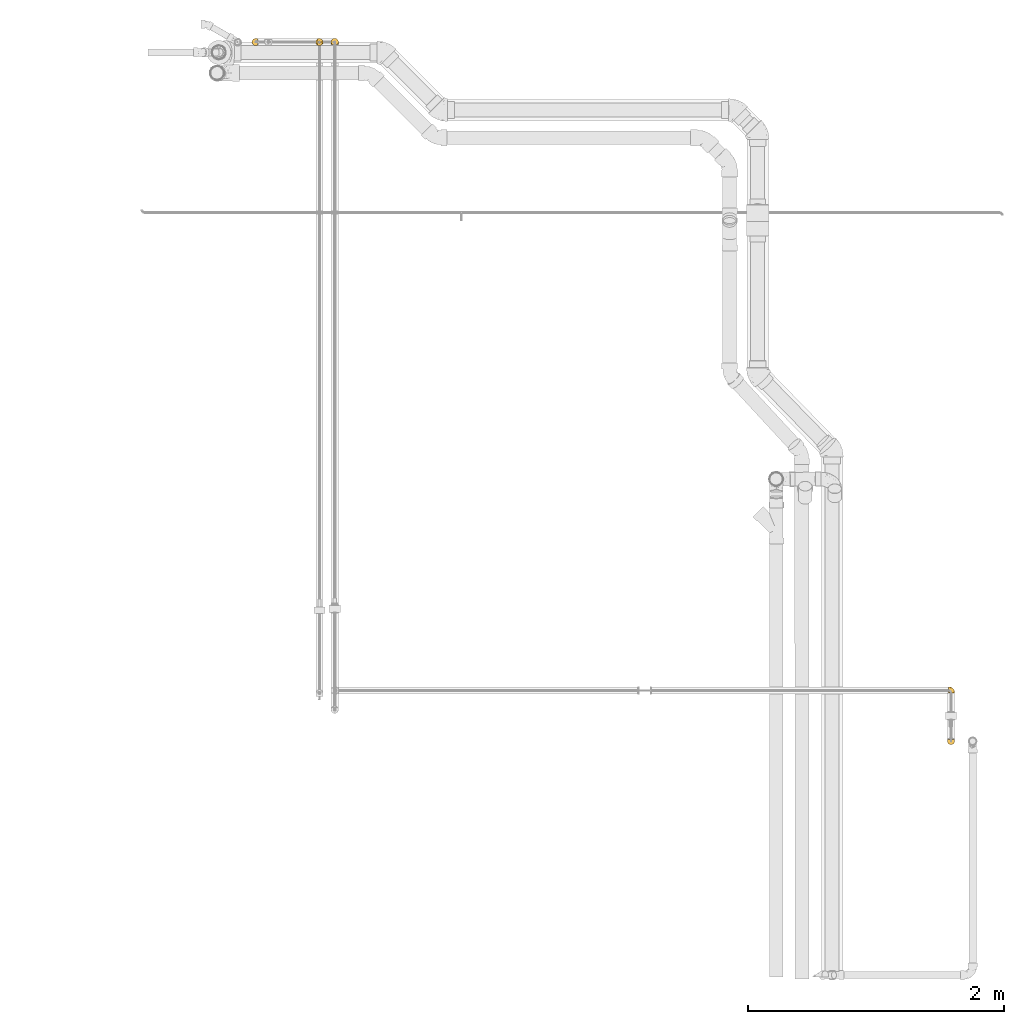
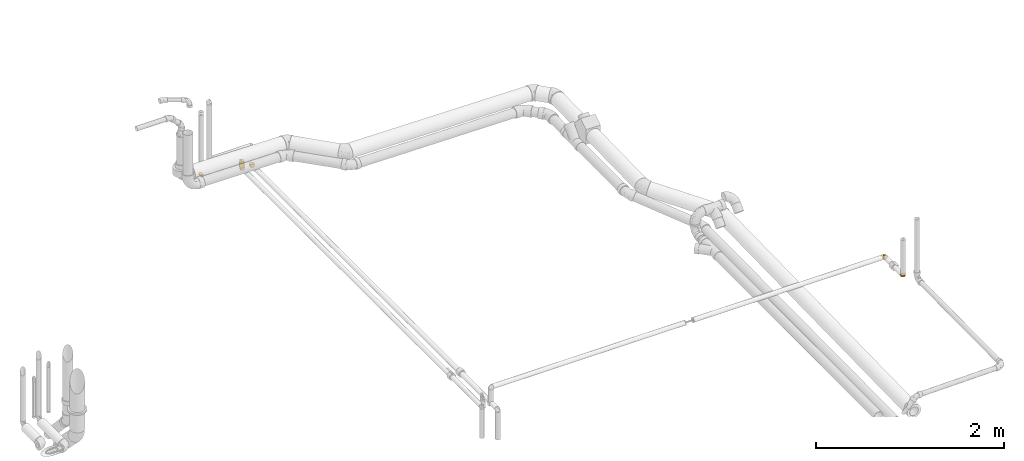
# One storey, part 6 of 78: 7 coverings.
"""IFC2X3 building model written with IfcOpenShell, lengths in millimetres."""

from ifc_helpers import new_model, entity, si_unit, converted_unit, derived_unit, direction, frame, origin_with_axes, origin_2d_with_axis, place, context, subcontext, project, spatial, hollow_circle, extrude, open_shell, surface_model, source, transform, mapped, element, save


model = new_model("IFC2X3")

# Units and contexts
model_context = context("Model", 3, precision=0.01, world=frame((0.0, 4.29681676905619e-09, 0.0)), true_north=direction((4.01073788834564e-13, 1.0)))
plan_context = context("Plan", 3, precision=0.01, world=frame((0.0, 4.29681676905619e-09, 0.0)), true_north=direction((4.01073788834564e-13, 1.0)))
body_context = subcontext(model_context, "Body", "Model", "MODEL_VIEW")
ifc_project = project(units=[converted_unit("PLANEANGLEUNIT", "DEGREE", entity("IfcPositiveLengthMeasure", 0.0174532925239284), si_unit("PLANEANGLEUNIT", "RADIAN"), dimensions=[0, 0, 0, 0, 0, 0, 0]), si_unit("AREAUNIT", "SQUARE_METRE"), si_unit("LENGTHUNIT", "METRE", prefix="MILLI"), si_unit("MASSUNIT", "GRAM", prefix="KILO"), si_unit("POWERUNIT", "WATT"), si_unit("PRESSUREUNIT", "PASCAL"), si_unit("FORCEUNIT", "NEWTON", prefix="KILO"), si_unit("ELECTRICVOLTAGEUNIT", "VOLT"), si_unit("ELECTRICCURRENTUNIT", "AMPERE"), si_unit("THERMODYNAMICTEMPERATUREUNIT", "DEGREE_CELSIUS"), si_unit("TIMEUNIT", "SECOND"), si_unit("VOLUMEUNIT", "CUBIC_METRE"), derived_unit("LINEARVELOCITYUNIT", [(si_unit("LENGTHUNIT", "METRE"), 1), (si_unit("TIMEUNIT", "SECOND"), -1)]), derived_unit("VOLUMETRICFLOWRATEUNIT", [(si_unit("VOLUMEUNIT", "CUBIC_METRE"), 1), (si_unit("TIMEUNIT", "SECOND"), -1)]), derived_unit("THERMALTRANSMITTANCEUNIT", [(si_unit("POWERUNIT", "WATT"), 1), (si_unit("THERMODYNAMICTEMPERATUREUNIT", "KELVIN"), -1), (si_unit("AREAUNIT", "SQUARE_METRE"), -1)]), derived_unit("SOUNDPRESSUREUNIT", [(si_unit("PRESSUREUNIT", "PASCAL"), 1)])], contexts=[model_context, plan_context])

# Site, building, storey
site_placement = place(None, frame((0.0, -4.29681676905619e-09, 0.0), z_axis=(0.0, 0.0, 1.0), x_axis=(1.0, 0.0, 0.0)))
site = spatial("IfcSite", under=ifc_project, at=site_placement, Name="ENGM", CompositionType="ELEMENT")
building_placement = place(site_placement, frame((0.0, 4.29681676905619e-09, 0.0), z_axis=(0.0, 0.0, 1.0), x_axis=(1.0, 0.0, 0.0)))
building = spatial("IfcBuilding", under=site, at=building_placement, Name="TH", CompositionType="ELEMENT")
storey_placement = place(building_placement, frame((0.0, 0.0, 205200.0), z_axis=(0.0, 0.0, 1.0), x_axis=(1.0, 0.0, 0.0)))
storey = spatial("IfcBuildingStorey", under=building, at=storey_placement, Name="Nivå D + 1,2 m", CompositionType="ELEMENT", Elevation=205200.0)

# Coverings
shared_shape_1 = source(origin_with_axes(), body_context, "Body", "SurfaceModel", [
    surface_model("IfcShellBasedSurfaceModel", [(12.5872, 18.0, 26.12589), (18.08563, 18.0, 22.66959), (22.67648, 18.0, 18.07698), (26.13012, 18.0, 12.57843), (28.27375, 18.0, 6.44942), (-6.31725, 18.0, 28.30358), (-17.77173, 18.0, -22.9165), (0.0, 18.0, 29.0), (6.45633, 18.0, 28.27217), (-17.77173, 18.0, 22.9165), (-12.34105, 18.0, 26.24307), (28.27217, 18.0, -6.45633), (22.66959, 18.0, -18.08563), (26.12589, 18.0, -12.5872), (18.07698, 18.0, -22.67648), (-12.3529, 18.0, -26.23749), (-6.33004, 18.0, -28.30072), (6.44942, 18.0, -28.27375), (12.57843, 18.0, -26.13012), (0.0, 18.0, -29.0), (29.0, 18.0, 0.0), (-18.0, 17.77173, 22.9165), (-18.0, 17.77173, -22.9165), (-18.0, 12.34563, -26.24091), (-18.0, 6.32509, -28.30182), (-18.0, 0.0, -29.0), (-18.0, 0.0, 29.0), (-18.0, 12.34563, 26.24091), (-18.0, 6.32509, 28.30182), (-18.0, -14.5, 25.11474), (-18.0, -7.50575, 28.01185), (-18.0, -7.50575, -28.01185), (-18.0, -14.5, -25.11474), (-18.0, -28.01185, -7.50575), (-18.0, -25.11474, -14.5), (-18.0, -20.5061, -20.5061), (-18.0, -28.01185, 7.50575), (-18.0, -20.5061, 20.5061), (-18.0, -25.11474, 14.5), (-18.0, -29.0, 0.0), (-17.83859, 17.83859, 22.9165), (-17.83859, 17.83859, -22.9165), (-11.91423, 11.9123, -27.437), (-5.27208, 5.27208, -29.0), (-15.63786, 14.48961, -25.5229), (25.93601, 6.67854, -9.58205), (27.02342, 8.06308, 0.0), (-11.58944, -10.38288, -26.79251), (-8.72435, -16.42638, -23.00725), (-2.15074, -19.82057, -17.65408), (-10.78654, -22.36781, -17.65408), (-10.90925, -4.53647, -28.44912), (-4.56412, -7.81008, -26.79251), (1.42942, -22.15165, -11.53878), (4.08186, -22.64535, -6.52508), (-4.04847, -26.34204, -5.44064), (-6.34693, -25.25014, -11.09782), (8.70204, 11.12014, -27.37401), (12.30526, -12.14334, -15.12435), (15.68692, -5.11925, -17.84797), (18.58838, -6.20359, -13.10629), (-1.45635, 14.48406, -29.0), (20.49628, -7.02537, -7.85654), (-14.48406, 1.45635, -29.0), (17.63513, 1.45693, -19.69333), (20.97621, 0.92546, -15.43347), (14.81555, 11.64794, -24.55768), (19.28448, 8.39344, -20.51001), (12.61582, 4.58807, -24.55768), (4.16849, 4.09476, -27.82577), (3.89702, -4.58536, -25.68841), (-2.23671, -1.20763, -28.17991), (0.57021, -13.0879, -22.56817), (9.4476, -9.00088, -20.51001), (23.77672, 9.91353, -15.43347), (25.42234, 0.01388, 0.0), (15.09054, -13.36351, -8.92567), (-8.45406, 3.95406, -29.0), (-6.64688, -2.8871, -28.41954), (-11.63604, 2.63604, -29.0), (-2.9127, 10.96811, -29.0), (15.23402, -15.23402, 0.0), (20.32818, -7.61007, 0.0), (8.70429, -18.28971, -10.43847), (11.53611, -17.98985, -5.04364), (5.36399, -15.33486, -18.03817), (-8.06308, -27.02342, 0.0), (8.1898, 0.02909, -25.52631), (12.51117, -2.09819, -22.30296), (-4.09239, 8.1201, -29.0), (-0.01388, -25.42234, 0.0), (7.61007, -20.32818, 0.0), (-2.15312, -19.82156, 17.65408), (0.57215, -13.08608, 22.56863), (-8.72508, -16.42658, 23.00725), (-4.04847, -26.34203, 5.4407), (-10.78795, -22.36806, 17.65408), (-6.34785, -25.25039, 11.09782), (25.939, 6.67899, 9.57411), (1.43206, -22.14749, 11.54476), (-11.58944, -10.38288, 26.79251), (20.50587, -7.01305, 7.85179), (20.98134, 0.92337, 15.42467), (4.16859, 4.08516, 27.82424), (8.70955, 11.11747, 27.37123), (-2.9127, 10.96811, 29.0), (8.71076, -18.28571, 10.43687), (11.53628, -17.99007, 5.04207), (15.09914, -13.35631, 8.92169), (12.51139, -2.10414, 22.30009), (8.20363, 0.03075, 25.52066), (3.90743, -4.56802, 25.69113), (-2.23663, -1.20773, 28.17988), (-6.92531, -2.24067, 28.55295), (-4.56412, -7.81008, 26.79251), (15.69231, -5.11628, 17.84442), (9.45318, -9.00636, 20.50219), (12.31497, -12.1393, 15.11775), (23.78211, 9.91229, 15.42467), (19.29205, 8.39148, 20.50219), (14.82422, 11.64641, 24.55215), (12.62384, 4.58443, 24.55215), (17.64599, 1.45836, 19.68333), (-11.63604, 2.63604, 29.0), (-14.48406, 1.45635, 29.0), (-10.90925, -4.53647, 28.44912), (5.3697, -15.3417, 18.027), (-1.45635, 14.48406, 29.0), (4.08207, -22.64476, 6.52689), (-5.27208, 5.27208, 29.0), (-4.09239, 8.1201, 29.0), (-8.45406, 3.95406, 29.0), (18.10711, -6.95019, 13.06771), (-11.91423, 11.9123, 27.437), (-10.60868, 7.01569, 28.60662)], [open_shell([[[0, 1, 2]], [[2, 3, 4]], [[0, 2, 5]], [[2, 6, 5]], [[7, 8, 0]], [[6, 9, 10]], [[6, 10, 5]], [[7, 0, 5]], [[2, 4, 6]], [[4, 11, 6]], [[11, 12, 6]], [[12, 11, 13]], [[14, 6, 12]], [[15, 6, 16]], [[17, 14, 18]], [[6, 14, 17]], [[19, 16, 6]], [[19, 6, 17]], [[11, 4, 20]], [[21, 22, 23]], [[24, 25, 23]], [[26, 23, 25]], [[27, 21, 28]], [[21, 26, 28]], [[21, 23, 26]], [[26, 29, 30]], [[26, 25, 29]], [[31, 32, 33]], [[34, 33, 32]], [[34, 32, 35]], [[31, 33, 36]], [[37, 29, 36]], [[37, 36, 38]], [[29, 31, 36]], [[33, 39, 36]], [[31, 29, 25]], [[22, 21, 40]], [[41, 22, 40]], [[9, 6, 40]], [[41, 40, 6]], [[42, 24, 23]], [[25, 24, 43]], [[43, 24, 42]], [[42, 23, 44]], [[22, 41, 44]], [[41, 6, 15]], [[19, 43, 16]], [[15, 44, 41]], [[22, 44, 23]], [[15, 16, 42]], [[15, 42, 44]], [[43, 42, 16]], [[45, 11, 46]], [[32, 31, 47]], [[45, 13, 11]], [[48, 49, 50]], [[47, 51, 52]], [[53, 54, 55]], [[55, 33, 56]], [[18, 57, 17]], [[50, 34, 35]], [[35, 32, 48]], [[58, 59, 60]], [[34, 50, 56]], [[17, 61, 19]], [[45, 62, 60]], [[31, 25, 63]], [[64, 65, 59]], [[66, 67, 68]], [[69, 70, 71]], [[18, 66, 57]], [[66, 18, 14]], [[72, 70, 73]], [[67, 14, 12]], [[74, 67, 12]], [[62, 45, 75]], [[64, 67, 65]], [[58, 60, 76]], [[12, 13, 74]], [[49, 48, 72]], [[75, 45, 46]], [[65, 74, 45]], [[34, 56, 33]], [[77, 78, 79]], [[69, 80, 57]], [[57, 61, 17]], [[81, 62, 82]], [[69, 57, 68]], [[83, 84, 54]], [[47, 48, 32]], [[72, 73, 85]], [[53, 83, 54]], [[33, 55, 86]], [[58, 85, 73]], [[43, 69, 71]], [[70, 87, 88]], [[69, 43, 89]], [[11, 20, 46]], [[45, 74, 13]], [[67, 74, 65]], [[67, 66, 14]], [[57, 66, 68]], [[63, 51, 31]], [[48, 47, 52]], [[48, 52, 72]], [[70, 72, 52]], [[52, 51, 78]], [[88, 87, 68]], [[51, 63, 79]], [[71, 77, 43]], [[31, 51, 47]], [[71, 52, 78]], [[79, 78, 51]], [[52, 71, 70]], [[86, 55, 90]], [[86, 39, 33]], [[84, 81, 91]], [[91, 90, 54]], [[55, 54, 90]], [[76, 84, 83]], [[91, 54, 84]], [[53, 55, 56]], [[56, 49, 53]], [[85, 53, 49]], [[58, 76, 83]], [[76, 62, 81]], [[83, 53, 85]], [[59, 58, 73]], [[83, 85, 58]], [[72, 85, 49]], [[88, 59, 73]], [[60, 59, 65]], [[70, 88, 73]], [[64, 68, 67]], [[70, 69, 87]], [[69, 68, 87]], [[45, 60, 65]], [[60, 62, 76]], [[59, 88, 64]], [[68, 64, 88]], [[48, 50, 35]], [[56, 50, 49]], [[57, 80, 61]], [[62, 75, 82]], [[81, 84, 76]], [[89, 80, 69]], [[77, 71, 78]], [[92, 93, 94]], [[90, 95, 86]], [[96, 97, 92]], [[3, 98, 4]], [[38, 36, 97]], [[95, 99, 97]], [[30, 29, 100]], [[101, 98, 102]], [[103, 104, 105]], [[104, 0, 8]], [[106, 107, 108]], [[29, 37, 94]], [[109, 110, 111]], [[112, 113, 114]], [[37, 38, 96]], [[115, 116, 117]], [[102, 118, 119]], [[1, 119, 2]], [[37, 96, 94]], [[98, 3, 118]], [[98, 46, 4]], [[1, 0, 120]], [[121, 109, 122]], [[121, 104, 103]], [[104, 121, 120]], [[101, 75, 98]], [[109, 116, 115]], [[123, 124, 125]], [[117, 126, 106]], [[93, 111, 114]], [[30, 124, 26]], [[120, 119, 1]], [[81, 101, 108]], [[3, 2, 118]], [[8, 127, 104]], [[119, 118, 2]], [[101, 81, 82]], [[36, 86, 95]], [[95, 128, 99]], [[90, 91, 128]], [[106, 108, 117]], [[92, 126, 93]], [[100, 94, 114]], [[129, 103, 130]], [[112, 131, 113]], [[46, 98, 75]], [[46, 20, 4]], [[98, 118, 102]], [[104, 120, 0]], [[119, 120, 121]], [[94, 100, 29]], [[125, 30, 100]], [[111, 93, 116]], [[114, 94, 93]], [[111, 116, 109]], [[103, 129, 112]], [[112, 114, 111]], [[30, 125, 124]], [[114, 125, 100]], [[131, 112, 129]], [[125, 113, 123]], [[103, 112, 111]], [[36, 39, 86]], [[107, 128, 91]], [[36, 95, 97]], [[108, 107, 81]], [[81, 107, 91]], [[128, 107, 106]], [[128, 106, 99]], [[128, 95, 90]], [[126, 99, 106]], [[92, 97, 99]], [[103, 105, 130]], [[115, 132, 102]], [[108, 101, 132]], [[126, 117, 116]], [[132, 115, 117]], [[102, 119, 122]], [[122, 115, 102]], [[109, 121, 110]], [[121, 103, 110]], [[103, 111, 110]], [[93, 126, 116]], [[126, 92, 99]], [[108, 132, 117]], [[102, 132, 101]], [[121, 122, 119]], [[109, 115, 122]], [[97, 96, 38]], [[94, 96, 92]], [[127, 8, 7]], [[127, 105, 104]], [[82, 75, 101]], [[123, 113, 131]], [[114, 113, 125]], [[133, 27, 28]], [[21, 27, 40]], [[40, 27, 133]], [[133, 28, 134]], [[26, 129, 134]], [[129, 7, 5]], [[9, 40, 10]], [[5, 134, 129]], [[26, 134, 28]], [[5, 10, 133]], [[5, 133, 134]], [[40, 133, 10]]])]),
])
for number, where, z_axis, x_axis in (
    (1, (904834.075, 478275.49112, 4410.0), (0.0, 0.0, 1.0), (0.0, 1.0, 0.0)),
    (2, (900010.50163, 483351.12926, 4210.0), (1.0, 0.0, 0.0), (0.0, 1.0, 0.0)),
):
    element("IfcCovering", number, at=place(storey_placement, frame(where, z_axis=z_axis, x_axis=x_axis)), inside=storey, Name="BI20T - Cellegummi 13 mm kalde rør", PredefinedType="INSULATION", context=body_context, shape_type="MappedRepresentation", body=[
        mapped(shared_shape_1, transform((0.0, 0.0, 0.0), scale=1.0)),
    ])
shared_shape_2 = source(origin_with_axes(), body_context, "Body", "SurfaceModel", [
    surface_model("IfcShellBasedSurfaceModel", [(21.50356, 15.0, 17.14197), (24.77856, 15.0, 11.92782), (26.81132, 15.0, 6.11583), (-5.16248, 15.0, 27.01109), (0.0, 15.0, 27.5), (-10.14354, 15.0, 25.56088), (-14.76876, 15.0, -23.19771), (-14.76876, 15.0, 23.19771), (11.93614, 15.0, 24.77456), (6.12238, 15.0, 26.80982), (24.77456, 15.0, -11.93614), (21.49702, 15.0, -17.15016), (17.14197, 15.0, -21.50356), (11.92782, 15.0, -24.77856), (-10.15137, 15.0, -25.55777), (-5.17075, 15.0, -27.0095), (6.11583, 15.0, -26.81132), (0.0, 15.0, -27.5), (26.80982, 15.0, -6.12238), (27.5, 15.0, 0.0), (-15.0, 14.76876, 23.19771), (-15.0, 14.76876, -23.19771), (-15.0, 10.14805, -25.55909), (-15.0, -13.75, 23.8157), (-15.0, 0.0, 27.5), (-15.0, 5.16599, -27.01042), (-15.0, 10.14805, 25.55909), (-15.0, 5.16599, 27.01042), (-15.0, -7.11752, 26.56296), (-15.0, 0.0, -27.5), (-15.0, -13.75, -23.8157), (-15.0, -23.8157, -13.75), (-15.0, -19.44544, -19.44544), (-15.0, -27.5, 0.0), (-15.0, -26.56296, -7.11752), (-15.0, -19.44544, 19.44544), (-15.0, -23.8157, 13.75), (-15.0, -26.56296, 7.11752), (-15.0, -7.11752, -26.56296), (-14.83649, 14.83649, 23.19771), (-14.83649, 14.83649, -23.19771), (-9.83314, 9.83084, -26.40253), (-4.3934, 4.3934, -27.5), (-12.83947, 12.05061, -25.05125), (-4.48793, -24.01534, -10.52379), (-11.98334, 1.24954, -27.5), (-9.37684, -9.89667, -25.40669), (-8.82333, -4.41336, -26.97014), (-7.04505, 3.29505, -27.5), (-5.1718, -3.02029, -26.93903), (-9.6967, 2.1967, -27.5), (24.65994, 4.7804, -9.08643), (1.06278, -23.77897, -5.3526), (6.25, -21.80608, 0.0), (-4.375, -24.65304, 0.0), (1.54868, -12.7037, -21.40086), (4.32424, -4.93171, -24.3597), (9.55297, -9.15335, -19.44914), (-6.74238, -15.64799, -21.81722), (-1.24954, 11.98334, -27.5), (-8.5236, -21.24312, -16.74094), (-0.77018, -18.95614, -16.74094), (8.31737, 8.99221, -25.95811), (15.40258, -1.18426, -19.44893), (18.35244, 6.40655, -19.44914), (20.06511, -0.36118, -14.63519), (12.13715, 3.11198, -23.28745), (14.08693, 9.36968, -23.28745), (14.85125, -14.38152, -5.78233), (21.80608, -6.25, 0.0), (14.02804, -14.02804, 0.0), (4.36843, 2.94628, -26.36681), (-1.36459, -1.6148, -26.72233), (25.07086, 5.93431, 0.0), (20.29431, -6.45586, -8.02095), (22.58459, 7.72498, -14.63519), (-2.49909, 8.96667, -27.5), (8.33474, -14.73903, -15.37407), (2.78643, -21.46003, -10.12782), (-7.07519, -26.25186, -5.1881), (15.0344, -9.43108, -13.92095), (10.00026, -3.0542, -22.48144), (8.16542, -20.09043, -4.96929), (-3.21442, -7.63988, -25.40669), (9.46251, -17.5384, -9.76399), (-4.49126, -24.01624, 10.52379), (-7.07517, -26.25186, 5.18812), (2.7851, -21.45964, 10.13017), (-0.77879, -18.95975, 16.74094), (-8.52869, -21.24403, 16.74094), (10.00623, -3.06404, 22.47397), (4.36772, 2.93777, 26.36566), (4.32909, -4.93518, 24.35662), (14.09461, 9.36543, 23.28221), (18.35902, 6.40238, 19.44173), (17.15016, 15.0, 21.49702), (-1.36241, -1.61745, 26.7215), (-5.47085, -2.34739, 27.07921), (-3.21442, -7.63988, 25.40669), (15.40846, -1.18809, 19.44194), (12.14263, 3.10369, 23.28221), (-6.745, -15.64869, 21.81722), (8.32409, 8.9881, 25.95548), (20.06721, -0.36943, 14.62684), (22.58901, 7.7202, 14.62684), (-9.37684, -9.89667, 25.40669), (-2.49909, 8.96667, 27.5), (1.54508, -12.70941, 21.39839), (20.30092, -6.44893, 8.01422), (24.66205, 4.77802, 9.0789), (-11.98334, 1.24954, 27.5), (15.03275, -9.44266, 13.91067), (-8.82333, -4.41336, 26.97014), (-1.24954, 11.98334, 27.5), (-9.6967, 2.1967, 27.5), (-7.04505, 3.29505, 27.5), (1.06272, -23.77883, 5.35336), (9.46283, -17.53693, 9.7666), (8.16718, -20.08904, 4.97031), (14.85491, -14.37711, 5.78458), (8.34277, -14.73848, 15.36735), (-4.3934, 4.3934, 27.5), (9.54904, -9.16792, 19.44173), (-9.83314, 9.83084, 26.40253), (-8.43135, 6.03295, 27.22427)], [open_shell([[[0, 1, 2]], [[3, 4, 5]], [[6, 5, 4]], [[7, 5, 6]], [[8, 4, 9]], [[6, 10, 11]], [[10, 6, 0]], [[11, 12, 13]], [[14, 6, 15]], [[13, 6, 11]], [[16, 6, 13]], [[17, 15, 6]], [[17, 6, 16]], [[18, 2, 19]], [[20, 21, 22]], [[23, 24, 22]], [[22, 25, 23]], [[26, 20, 24]], [[26, 24, 27]], [[20, 22, 24]], [[24, 23, 28]], [[25, 29, 23]], [[29, 30, 23]], [[23, 30, 31]], [[31, 30, 32]], [[33, 31, 34]], [[35, 23, 36]], [[36, 33, 37]], [[36, 23, 31]], [[31, 33, 36]], [[30, 29, 38]], [[21, 20, 39]], [[40, 21, 39]], [[7, 6, 39]], [[40, 39, 6]], [[41, 25, 22]], [[29, 25, 42]], [[42, 25, 41]], [[41, 22, 43]], [[21, 40, 43]], [[40, 6, 14]], [[17, 42, 15]], [[14, 43, 40]], [[21, 43, 22]], [[14, 15, 41]], [[14, 41, 43]], [[42, 41, 15]], [[31, 44, 34]], [[38, 29, 45]], [[46, 30, 38]], [[38, 47, 46]], [[48, 49, 50]], [[10, 18, 51]], [[52, 53, 54]], [[55, 56, 57]], [[30, 58, 32]], [[16, 59, 17]], [[32, 60, 31]], [[31, 60, 44]], [[58, 61, 60]], [[13, 62, 16]], [[59, 16, 62]], [[63, 64, 65]], [[64, 12, 11]], [[66, 67, 64]], [[68, 69, 70]], [[13, 67, 62]], [[71, 56, 72]], [[18, 19, 73]], [[66, 64, 63]], [[65, 51, 74]], [[11, 10, 75]], [[61, 58, 55]], [[51, 69, 74]], [[75, 64, 11]], [[51, 75, 10]], [[65, 75, 51]], [[71, 76, 62]], [[67, 13, 12]], [[18, 73, 51]], [[71, 62, 66]], [[69, 51, 73]], [[46, 58, 30]], [[55, 57, 77]], [[61, 77, 78]], [[44, 52, 79]], [[57, 80, 77]], [[80, 65, 74]], [[63, 81, 66]], [[42, 76, 71]], [[70, 82, 68]], [[80, 57, 63]], [[52, 82, 53]], [[34, 79, 33]], [[64, 75, 65]], [[64, 67, 12]], [[62, 67, 66]], [[45, 47, 38]], [[58, 46, 83]], [[58, 83, 55]], [[56, 55, 83]], [[83, 47, 49]], [[81, 71, 66]], [[68, 80, 74]], [[82, 70, 53]], [[77, 80, 84]], [[45, 50, 47]], [[42, 72, 48]], [[83, 46, 47]], [[72, 83, 49]], [[71, 72, 42]], [[83, 72, 56]], [[79, 52, 54]], [[78, 52, 44]], [[33, 79, 54]], [[44, 79, 34]], [[80, 63, 65]], [[81, 57, 56]], [[57, 81, 63]], [[71, 81, 56]], [[78, 77, 84]], [[55, 77, 61]], [[58, 60, 32]], [[44, 60, 61]], [[61, 78, 44]], [[82, 78, 84]], [[78, 82, 52]], [[82, 84, 68]], [[80, 68, 84]], [[69, 68, 74]], [[62, 76, 59]], [[50, 49, 47]], [[48, 72, 49]], [[36, 37, 85]], [[33, 54, 86]], [[85, 87, 88]], [[85, 88, 89]], [[90, 91, 92]], [[93, 94, 95]], [[96, 97, 98]], [[99, 94, 100]], [[35, 101, 23]], [[100, 102, 91]], [[94, 103, 104]], [[105, 28, 23]], [[91, 102, 106]], [[88, 107, 101]], [[108, 69, 109]], [[28, 110, 24]], [[94, 0, 95]], [[73, 109, 69]], [[111, 108, 103]], [[109, 2, 1]], [[73, 19, 2]], [[35, 89, 101]], [[8, 93, 95]], [[110, 28, 112]], [[99, 103, 94]], [[35, 36, 89]], [[102, 8, 9]], [[92, 98, 107]], [[104, 109, 1]], [[93, 102, 100]], [[9, 113, 102]], [[1, 0, 104]], [[109, 103, 108]], [[114, 97, 115]], [[73, 2, 109]], [[54, 53, 116]], [[116, 87, 85]], [[117, 118, 119]], [[120, 117, 111]], [[88, 120, 107]], [[105, 101, 98]], [[106, 121, 91]], [[96, 115, 97]], [[103, 99, 111]], [[70, 119, 118]], [[54, 116, 86]], [[94, 104, 0]], [[109, 104, 103]], [[102, 93, 8]], [[94, 93, 100]], [[101, 105, 23]], [[112, 28, 105]], [[92, 107, 122]], [[108, 119, 69]], [[98, 101, 107]], [[122, 99, 90]], [[96, 91, 121]], [[120, 111, 122]], [[119, 111, 117]], [[110, 112, 114]], [[105, 98, 112]], [[96, 98, 92]], [[115, 96, 121]], [[112, 97, 114]], [[91, 96, 92]], [[118, 116, 53]], [[86, 85, 37]], [[85, 86, 116]], [[33, 86, 37]], [[90, 99, 100]], [[111, 99, 122]], [[91, 90, 100]], [[122, 90, 92]], [[107, 120, 122]], [[87, 120, 88]], [[85, 89, 36]], [[101, 89, 88]], [[70, 118, 53]], [[87, 118, 117]], [[69, 119, 70]], [[111, 119, 108]], [[118, 87, 116]], [[87, 117, 120]], [[113, 9, 4]], [[113, 106, 102]], [[98, 97, 112]], [[123, 26, 27]], [[20, 26, 39]], [[39, 26, 123]], [[123, 27, 124]], [[24, 121, 124]], [[121, 4, 3]], [[7, 39, 5]], [[3, 124, 121]], [[24, 124, 27]], [[3, 5, 123]], [[3, 123, 124]], [[39, 123, 5]], [[8, 95, 0]], [[8, 0, 4]], [[4, 0, 6]], [[0, 2, 10]], [[18, 10, 2]]])]),
])
for number, where, z_axis, x_axis, name in (
    (3, (904834.075, 477879.03687, 4410.0), (1.0, 0.0, 0.0), (0.0, 3.999999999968e-06, -0.999999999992), "BI20T - Cellegummi 13 mm kalde rør"),
    (4, (899390.50163, 483351.12945, 4300.0), (0.0, -1.0, 0.0), (0.0, 0.0, -1.0), "BI16T - Rørskål m/Al.folie - VV 40mm"),
    (5, (899890.50163, 483351.12945, 4212.79203000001), (-1.0, 0.0, 0.0), (0.0, 3.999999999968e-06, -0.999999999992), "BI16T - Rørskål m/Al.folie - VV 40mm"),
):
    element("IfcCovering", number, at=place(storey_placement, frame(where, z_axis=z_axis, x_axis=x_axis)), inside=storey, Name=name, PredefinedType="INSULATION", context=body_context, shape_type="MappedRepresentation", body=[
        mapped(shared_shape_2, transform((0.0, 0.0, 0.0), scale=1.0)),
    ])
shared_shape_3 = source(origin_with_axes(), body_context, "Body", "SurfaceModel", [
    surface_model("IfcShellBasedSurfaceModel", [(0.0, 15.0, 27.5), (11.93614, 15.0, 24.77456), (17.15016, 15.0, 21.49702), (21.50356, 15.0, 17.14197), (24.77856, 15.0, 11.92782), (26.81132, 15.0, 6.11583), (-14.76876, 15.0, -23.19771), (-5.16248, 15.0, 27.01109), (-10.14354, 15.0, 25.56088), (-14.76876, 15.0, 23.19771), (6.12238, 15.0, 26.80982), (26.80982, 15.0, -6.12238), (24.77456, 15.0, -11.93614), (21.49702, 15.0, -17.15016), (17.14197, 15.0, -21.50356), (11.92782, 15.0, -24.77856), (-10.15137, 15.0, -25.55777), (-5.17075, 15.0, -27.0095), (6.11583, 15.0, -26.81132), (0.0, 15.0, -27.5), (27.5, 15.0, 0.0), (-15.0, 14.76876, 23.19771), (-15.0, 14.76876, -23.19771), (-15.0, 10.14805, -25.55909), (-15.0, -13.75, 23.8157), (-15.0, 0.0, 27.5), (-15.0, 5.16599, -27.01042), (-15.0, 10.14805, 25.55909), (-15.0, 5.16599, 27.01042), (-15.0, -7.11752, 26.56296), (-15.0, 0.0, -27.5), (-15.0, -13.75, -23.8157), (-15.0, -23.8157, -13.75), (-15.0, -19.44544, -19.44544), (-15.0, -27.5, 0.0), (-15.0, -26.56296, -7.11752), (-15.0, -19.44544, 19.44544), (-15.0, -23.8157, 13.75), (-15.0, -26.56296, 7.11752), (-15.0, -7.11752, -26.56296), (-14.83649, 14.83649, 23.19771), (-14.83649, 14.83649, -23.19771), (-9.83314, 9.83084, -26.40253), (-4.3934, 4.3934, -27.5), (-12.83947, 12.05061, -25.05125), (-4.48793, -24.01534, -10.52379), (-11.98334, 1.24954, -27.5), (-9.37684, -9.89667, -25.40669), (-8.82333, -4.41336, -26.97014), (-7.04505, 3.29505, -27.5), (-5.1718, -3.02029, -26.93903), (-9.6967, 2.1967, -27.5), (24.65994, 4.7804, -9.08643), (1.06278, -23.77897, -5.3526), (6.25, -21.80608, 0.0), (-4.375, -24.65304, 0.0), (1.54868, -12.7037, -21.40086), (4.32424, -4.93171, -24.3597), (9.55297, -9.15335, -19.44914), (-6.74238, -15.64799, -21.81722), (-1.24954, 11.98334, -27.5), (-8.5236, -21.24312, -16.74094), (-0.77018, -18.95614, -16.74094), (8.31737, 8.99221, -25.95811), (15.40258, -1.18426, -19.44893), (18.35244, 6.40655, -19.44914), (20.06511, -0.36118, -14.63519), (12.13715, 3.11198, -23.28745), (14.08693, 9.36968, -23.28745), (14.85125, -14.38152, -5.78233), (21.80608, -6.25, 0.0), (14.02804, -14.02804, 0.0), (4.36843, 2.94628, -26.36681), (-1.36459, -1.6148, -26.72233), (25.07086, 5.93431, 0.0), (20.29431, -6.45586, -8.02095), (22.58459, 7.72498, -14.63519), (-2.49909, 8.96667, -27.5), (8.33474, -14.73903, -15.37407), (2.78643, -21.46003, -10.12782), (-7.07519, -26.25186, -5.1881), (15.0344, -9.43108, -13.92095), (10.00026, -3.0542, -22.48144), (8.16542, -20.09043, -4.96929), (-3.21442, -7.63988, -25.40669), (9.46251, -17.5384, -9.76399), (-4.49126, -24.01624, 10.52379), (-7.07517, -26.25186, 5.18812), (2.7851, -21.45964, 10.13017), (-0.77879, -18.95975, 16.74094), (-8.52869, -21.24403, 16.74094), (10.00623, -3.06404, 22.47397), (4.36772, 2.93777, 26.36566), (4.32909, -4.93518, 24.35662), (14.09461, 9.36543, 23.28221), (18.35902, 6.40238, 19.44173), (-1.36241, -1.61745, 26.7215), (-5.47085, -2.34739, 27.07921), (-3.21442, -7.63988, 25.40669), (15.40846, -1.18809, 19.44194), (12.14263, 3.10369, 23.28221), (-6.745, -15.64869, 21.81722), (8.32409, 8.9881, 25.95548), (20.06721, -0.36943, 14.62684), (22.58901, 7.7202, 14.62684), (-9.37684, -9.89667, 25.40669), (-2.49909, 8.96667, 27.5), (1.54508, -12.70941, 21.39839), (20.30092, -6.44893, 8.01422), (24.66205, 4.77802, 9.0789), (-11.98334, 1.24954, 27.5), (15.03275, -9.44266, 13.91067), (-8.82333, -4.41336, 26.97014), (-1.24954, 11.98334, 27.5), (-9.6967, 2.1967, 27.5), (-7.04505, 3.29505, 27.5), (1.06272, -23.77883, 5.35336), (9.46283, -17.53693, 9.7666), (8.16718, -20.08904, 4.97031), (14.85491, -14.37711, 5.78458), (8.34277, -14.73848, 15.36735), (-4.3934, 4.3934, 27.5), (9.54904, -9.16792, 19.44173), (-9.83314, 9.83084, 26.40253), (-8.43135, 6.03295, 27.22427)], [open_shell([[[0, 1, 2]], [[3, 4, 5]], [[0, 2, 6]], [[6, 2, 3]], [[7, 0, 8]], [[6, 8, 0]], [[9, 8, 6]], [[1, 0, 10]], [[11, 3, 5]], [[11, 12, 3]], [[6, 12, 13]], [[12, 6, 3]], [[13, 14, 15]], [[16, 6, 17]], [[15, 6, 13]], [[18, 6, 15]], [[19, 17, 6]], [[19, 6, 18]], [[11, 5, 20]], [[21, 22, 23]], [[24, 25, 23]], [[23, 26, 24]], [[27, 21, 25]], [[27, 25, 28]], [[21, 23, 25]], [[25, 24, 29]], [[26, 30, 24]], [[30, 31, 24]], [[24, 31, 32]], [[32, 31, 33]], [[34, 32, 35]], [[36, 24, 37]], [[37, 34, 38]], [[37, 24, 32]], [[32, 34, 37]], [[31, 30, 39]], [[22, 21, 40]], [[41, 22, 40]], [[9, 6, 40]], [[41, 40, 6]], [[42, 26, 23]], [[30, 26, 43]], [[43, 26, 42]], [[42, 23, 44]], [[22, 41, 44]], [[41, 6, 16]], [[19, 43, 17]], [[16, 44, 41]], [[22, 44, 23]], [[16, 17, 42]], [[16, 42, 44]], [[43, 42, 17]], [[32, 45, 35]], [[39, 30, 46]], [[47, 31, 39]], [[39, 48, 47]], [[49, 50, 51]], [[12, 11, 52]], [[53, 54, 55]], [[56, 57, 58]], [[31, 59, 33]], [[18, 60, 19]], [[33, 61, 32]], [[32, 61, 45]], [[59, 62, 61]], [[15, 63, 18]], [[60, 18, 63]], [[64, 65, 66]], [[65, 14, 13]], [[67, 68, 65]], [[69, 70, 71]], [[15, 68, 63]], [[72, 57, 73]], [[11, 20, 74]], [[67, 65, 64]], [[66, 52, 75]], [[13, 12, 76]], [[62, 59, 56]], [[52, 70, 75]], [[76, 65, 13]], [[52, 76, 12]], [[66, 76, 52]], [[72, 77, 63]], [[68, 15, 14]], [[11, 74, 52]], [[72, 63, 67]], [[70, 52, 74]], [[47, 59, 31]], [[56, 58, 78]], [[62, 78, 79]], [[45, 53, 80]], [[58, 81, 78]], [[81, 66, 75]], [[64, 82, 67]], [[43, 77, 72]], [[71, 83, 69]], [[81, 58, 64]], [[53, 83, 54]], [[35, 80, 34]], [[65, 76, 66]], [[65, 68, 14]], [[63, 68, 67]], [[46, 48, 39]], [[59, 47, 84]], [[59, 84, 56]], [[57, 56, 84]], [[84, 48, 50]], [[82, 72, 67]], [[69, 81, 75]], [[83, 71, 54]], [[78, 81, 85]], [[46, 51, 48]], [[43, 73, 49]], [[84, 47, 48]], [[73, 84, 50]], [[72, 73, 43]], [[84, 73, 57]], [[80, 53, 55]], [[79, 53, 45]], [[34, 80, 55]], [[45, 80, 35]], [[81, 64, 66]], [[82, 58, 57]], [[58, 82, 64]], [[72, 82, 57]], [[79, 78, 85]], [[56, 78, 62]], [[59, 61, 33]], [[45, 61, 62]], [[62, 79, 45]], [[83, 79, 85]], [[79, 83, 53]], [[83, 85, 69]], [[81, 69, 85]], [[70, 69, 75]], [[63, 77, 60]], [[51, 50, 48]], [[49, 73, 50]], [[37, 38, 86]], [[34, 55, 87]], [[86, 88, 89]], [[86, 89, 90]], [[91, 92, 93]], [[94, 95, 2]], [[96, 97, 98]], [[99, 95, 100]], [[36, 101, 24]], [[100, 102, 92]], [[95, 103, 104]], [[105, 29, 24]], [[92, 102, 106]], [[89, 107, 101]], [[108, 70, 109]], [[29, 110, 25]], [[95, 3, 2]], [[74, 109, 70]], [[111, 108, 103]], [[109, 5, 4]], [[74, 20, 5]], [[36, 90, 101]], [[1, 94, 2]], [[110, 29, 112]], [[99, 103, 95]], [[36, 37, 90]], [[102, 1, 10]], [[93, 98, 107]], [[104, 109, 4]], [[94, 102, 100]], [[10, 113, 102]], [[4, 3, 104]], [[109, 103, 108]], [[114, 97, 115]], [[74, 5, 109]], [[55, 54, 116]], [[116, 88, 86]], [[117, 118, 119]], [[120, 117, 111]], [[89, 120, 107]], [[105, 101, 98]], [[106, 121, 92]], [[96, 115, 97]], [[103, 99, 111]], [[71, 119, 118]], [[55, 116, 87]], [[95, 104, 3]], [[109, 104, 103]], [[102, 94, 1]], [[95, 94, 100]], [[101, 105, 24]], [[112, 29, 105]], [[93, 107, 122]], [[108, 119, 70]], [[98, 101, 107]], [[122, 99, 91]], [[96, 92, 121]], [[120, 111, 122]], [[119, 111, 117]], [[110, 112, 114]], [[105, 98, 112]], [[96, 98, 93]], [[115, 96, 121]], [[112, 97, 114]], [[92, 96, 93]], [[118, 116, 54]], [[87, 86, 38]], [[86, 87, 116]], [[34, 87, 38]], [[91, 99, 100]], [[111, 99, 122]], [[92, 91, 100]], [[122, 91, 93]], [[107, 120, 122]], [[88, 120, 89]], [[86, 90, 37]], [[101, 90, 89]], [[71, 118, 54]], [[88, 118, 117]], [[70, 119, 71]], [[111, 119, 108]], [[118, 88, 116]], [[88, 117, 120]], [[113, 10, 0]], [[113, 106, 102]], [[98, 97, 112]], [[123, 27, 28]], [[21, 27, 40]], [[40, 27, 123]], [[123, 28, 124]], [[25, 121, 124]], [[121, 0, 7]], [[9, 40, 8]], [[7, 124, 121]], [[25, 124, 28]], [[7, 8, 123]], [[7, 123, 124]], [[40, 123, 8]]])]),
])
covering_1_placement = place(storey_placement, frame((899890.50163, 483351.12945, 4300.0), z_axis=(0.0, 1.0, 0.0), x_axis=(1.0, 0.0, 0.0)))
element("IfcCovering", 6, at=covering_1_placement, inside=storey, Name="BI16T - Rørskål m/Al.folie - VV 40mm", PredefinedType="INSULATION", context=body_context, shape_type="MappedRepresentation", body=[
    mapped(shared_shape_3, transform((0.0, 0.0, 0.0), scale=1.0)),
])
shared_shape_4 = source(origin_with_axes(), body_context, "Body", "SweptSolid", [
    extrude(hollow_circle(Radius=27.5, WallThickness=20.0, at=origin_2d_with_axis()), frame((0.0, 0.0, 0.0), z_axis=(1.0, 0.0, 0.0), x_axis=(0.0, 1.0, 0.0)), (0.0, 0.0, 1.0), 57.2),
])
covering_2_placement = place(storey_placement, frame((899890.50163, 483351.12945, 4285.0), z_axis=(0.0, -1.0, 0.0), x_axis=(0.0, 0.0, -1.0)))
element("IfcCovering", 7, at=covering_2_placement, inside=storey, Name="BI16T - Rørskål m/Al.folie - VV 40mm", PredefinedType="INSULATION", context=body_context, shape_type="MappedRepresentation", body=[
    mapped(shared_shape_4, transform((0.0, 0.0, 0.0), scale=1.0)),
])

save(model, "model.ifc")
